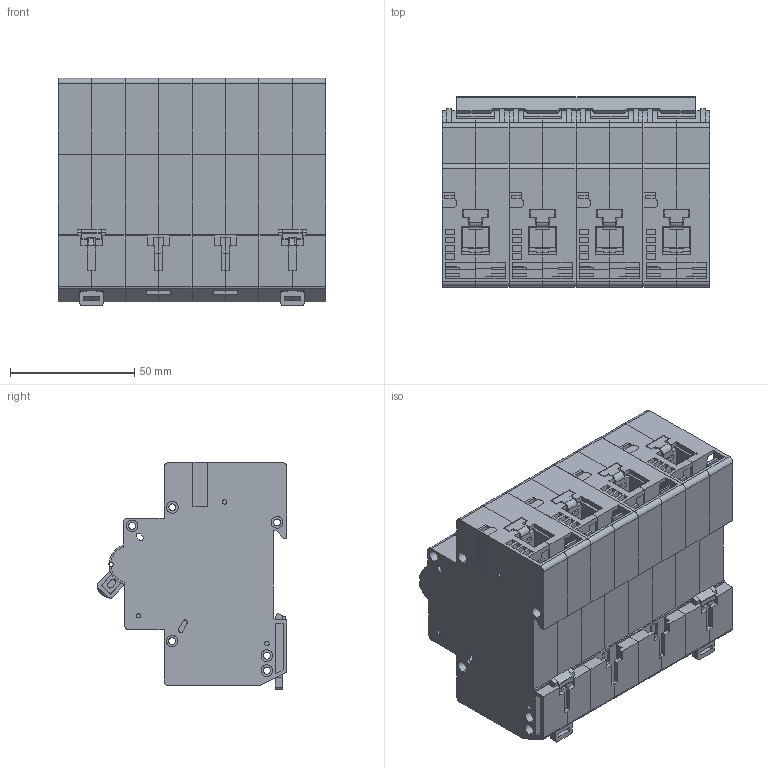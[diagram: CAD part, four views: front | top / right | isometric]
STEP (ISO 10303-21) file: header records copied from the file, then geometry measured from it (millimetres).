
FILE_DESCRIPTION (( 'STEP AP214' ), '1' );
FILE_NAME ('OptiDin BM125 4 瀁錌黟.STEP', '2022-12-01T08:54:46', ( '' ), ( '' ), 'SwSTEP 2.0', 'SolidWorks 2018', '' );
FILE_SCHEMA (( 'AUTOMOTIVE_DESIGN' ));
Length unit declared in the file: millimetre
Products named in the file (13): Âûâîä íèæíèé ÃÆÈÊ.745315.018 îáðåçàíûé; Áîêîâèíà ëåâàÿ ÃÆÈÊ.735224.141(ïóñòàÿ); OptiDin BM125 1 ïîëþñ_¡ §; OptiDin BM125 4 瀁錌黟; Êîëîäêà ÃÆÈÊ.745418.023; Ðó÷êà ÃÆÈÊ.753725.017; 妈眚 闷仁.758151.075; Áîêîâèíà ïðàâàÿ ÃÆÈÊ.735224.142 ïóñòàÿ; Âñòàâêà ÃÆÈÊ.741324.037; Çàù¸ëêà ÃÆÈÊ.741358.040; OptiDin BM125 1 ïîëþñ_1•; Âûâîä âåðõíèé ÃÆÈÊ.745315.019; Ñêîáà ÃÆÈÊ.746442.007_4-å
Assembly tree (26 placements, depth 3):
  OptiDin BM125 4 瀁錌黟
    OptiDin BM125 1 ïîëþñ_1•  x2
      Áîêîâèíà ëåâàÿ ÃÆÈÊ.735224.141(ïóñòàÿ)
      Áîêîâèíà ïðàâàÿ ÃÆÈÊ.735224.142 ïóñòàÿ
      Âñòàâêà ÃÆÈÊ.741324.037
      Âûâîä íèæíèé ÃÆÈÊ.745315.018 îáðåçàíûé
      Âûâîä âåðõíèé ÃÆÈÊ.745315.019
      妈眚 闷仁.758151.075
      Êîëîäêà ÃÆÈÊ.745418.023
      Ðó÷êà ÃÆÈÊ.753725.017
      Çàù¸ëêà ÃÆÈÊ.741358.040
    Ñêîáà ÃÆÈÊ.746442.007_4-å
    OptiDin BM125 1 ïîëþñ_¡ §  x2
      Áîêîâèíà ëåâàÿ ÃÆÈÊ.735224.141(ïóñòàÿ)
      Áîêîâèíà ïðàâàÿ ÃÆÈÊ.735224.142 ïóñòàÿ
      Âñòàâêà ÃÆÈÊ.741324.037
      Âûâîä íèæíèé ÃÆÈÊ.745315.018 îáðåçàíûé
      Âûâîä âåðõíèé ÃÆÈÊ.745315.019
      妈眚 闷仁.758151.075
      Êîëîäêà ÃÆÈÊ.745418.023
      Ðó÷êà ÃÆÈÊ.753725.017
Bounding box: 108 x 76.52 x 91.57 mm (x, y, z)
Volume: 183345.9 mm3; surface area: 214935.7 mm2
Topology: 43 solids, 43 shells, 4190 faces, 11297 edges, 7286 vertices
Faces by surface type: plane 3101, cylinder 1029, torus 32, cone 28
Entity records: 34977 total; most frequent: CARTESIAN_POINT 6416, ORIENTED_EDGE 5972, DIRECTION 5703, EDGE_CURVE 2986, VECTOR 2269, LINE 2269, VERTEX_POINT 1942, AXIS2_PLACEMENT_3D 1717
